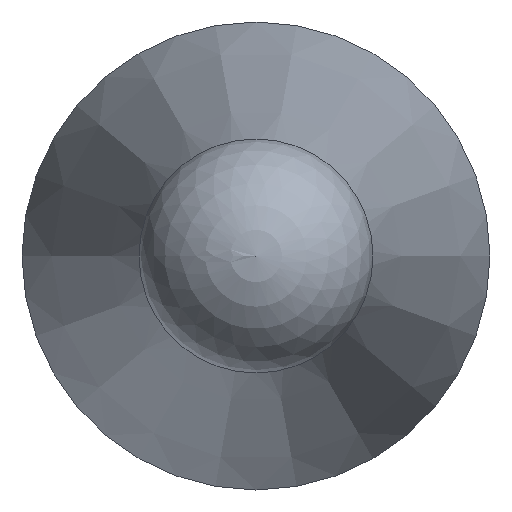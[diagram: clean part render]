
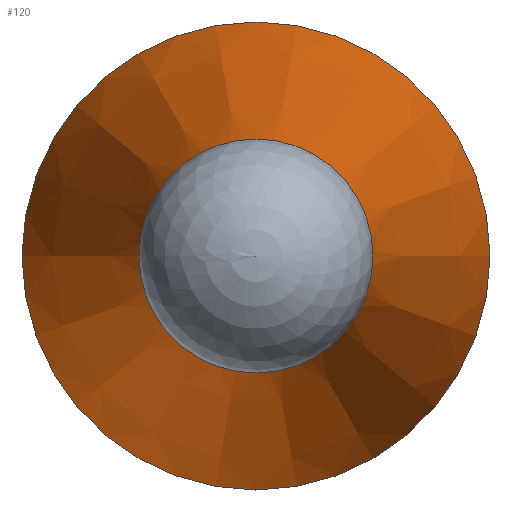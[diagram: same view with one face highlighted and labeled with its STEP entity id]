
A CAD part, left-side view. The second image highlights one B-rep face of the part: STEP entity #120.
In plain terms, the highlighted conical face has half-angle 12 degrees and reference radius 3 mm.
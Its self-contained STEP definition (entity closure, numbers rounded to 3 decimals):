
#97=CONICAL_SURFACE('',#193,3.,12.);
#99=B_SPLINE_CURVE_WITH_KNOTS('',3,(#245,#246,#247,#248,#249,#250,#251,
#252,#253,#254),.UNSPECIFIED.,.T.,.F.,(2,2,2,2,2,2,2),(-0.25,0.,0.25,0.5,
0.75,1.,1.25),.UNSPECIFIED.);
#107=FACE_BOUND('',#135,.T.);
#108=FACE_BOUND('',#136,.T.);
#120=ADVANCED_FACE('',(#107,#108),#97,.T.);
#135=EDGE_LOOP('',(#151));
#136=EDGE_LOOP('',(#152));
#151=ORIENTED_EDGE('',*,*,#173,.F.);
#152=ORIENTED_EDGE('',*,*,#174,.T.);
#165=VERTEX_POINT('',#255);
#166=VERTEX_POINT('',#258);
#173=EDGE_CURVE('',#165,#165,#99,.T.);
#174=EDGE_CURVE('',#166,#166,#181,.T.);
#181=CIRCLE('',#192,3.);
#192=AXIS2_PLACEMENT_3D('',#257,#216,#217);
#193=AXIS2_PLACEMENT_3D('',#259,#218,#219);
#216=DIRECTION('',(-1.,0.,0.));
#217=DIRECTION('',(0.,-1.,0.));
#218=DIRECTION('',(1.,0.,0.));
#219=DIRECTION('',(0.,1.,0.));
#245=CARTESIAN_POINT('',(7901.912,6104.777,0.779));
#246=CARTESIAN_POINT('',(7901.912,6104.777,-0.779));
#247=CARTESIAN_POINT('',(7901.912,6104.067,-1.488));
#248=CARTESIAN_POINT('',(7901.912,6102.509,-1.488));
#249=CARTESIAN_POINT('',(7901.912,6101.8,-0.779));
#250=CARTESIAN_POINT('',(7901.912,6101.8,0.779));
#251=CARTESIAN_POINT('',(7901.912,6102.509,1.488));
#252=CARTESIAN_POINT('',(7901.912,6104.067,1.488));
#253=CARTESIAN_POINT('',(7901.912,6104.777,0.779));
#254=CARTESIAN_POINT('',(7901.912,6104.777,-0.779));
#255=CARTESIAN_POINT('',(7901.912,6104.777,0.));
#257=CARTESIAN_POINT('',(7909.023,6103.288,0.));
#258=CARTESIAN_POINT('',(7909.023,6100.288,0.));
#259=CARTESIAN_POINT('',(7909.023,6103.288,0.));
